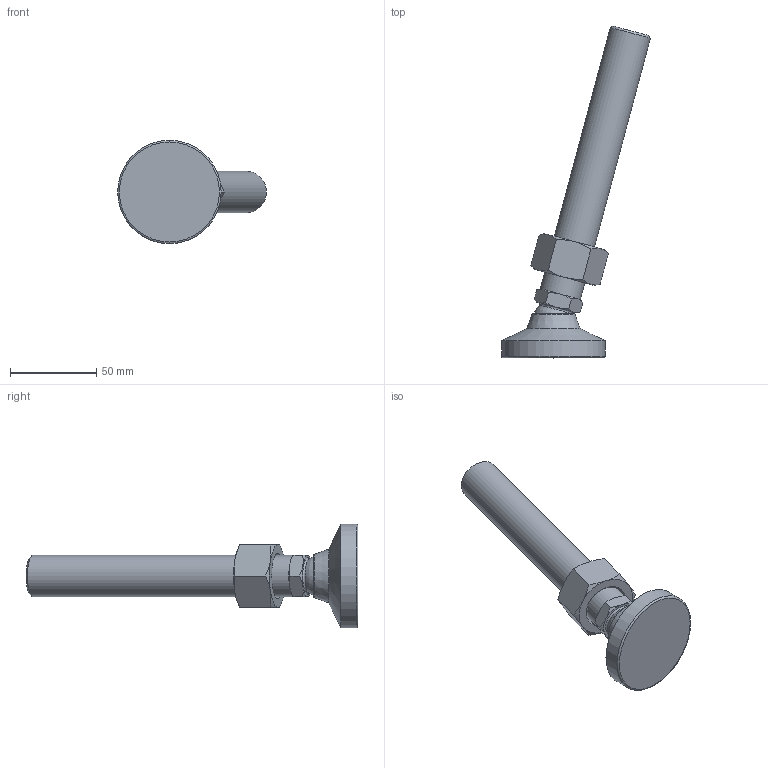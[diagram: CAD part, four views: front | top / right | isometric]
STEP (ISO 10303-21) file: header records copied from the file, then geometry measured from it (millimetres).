
FILE_DESCRIPTION( ( 'STEP AP214' ), ' ' );
FILE_NAME( 'O:/ganter_2015/teil_2/2_5/gn343_2/gn343_2_ks/Levelling foot with threaded stud GN 343.2-60-M24-158-KS-(-15).stp', '2015-10-26T09:12:05', ( '' ), ( '' ), ' ', 'PARTsolutions', ' ' );
FILE_SCHEMA( ( 'AUTOMOTIVE_DESIGN { 1 0 10303 214 1 1 1 1 }' ) );
Length unit declared in the file: millimetre
Products named in the file (4): Levelling foot with threaded stud GN 343.2-60-M24-158-KS-(-15); _Levelling foot with threaded stud GN 343.2-60-M24-158-KS-(-15)_foot; _Gelenkfuss mit Schraube GN 343.2-60-M24-158-KS-(-15)_screw; _GLevelling foot with threaded stud GN 343.2-60-M24-158-KS-(-15)_nut
Assembly tree (3 placements, depth 2):
  Levelling foot with threaded stud GN 343.2-60-M24-158-KS-(-15)
    _Levelling foot with threaded stud GN 343.2-60-M24-158-KS-(-15)_foot
    _Gelenkfuss mit Schraube GN 343.2-60-M24-158-KS-(-15)_screw
    _GLevelling foot with threaded stud GN 343.2-60-M24-158-KS-(-15)_nut
Bounding box: 86.17 x 192.39 x 60 mm (x, y, z)
Volume: 138466.6 mm3; surface area: 28914.3 mm2
Topology: 3 solids, 3 shells, 55 faces, 116 edges, 67 vertices
Faces by surface type: cone 29, plane 18, torus 3, cylinder 3, sphere 2
Full cylindrical faces by diameter (mm): 20.752 x1, 24 x1, 60 x1
Entity records: 2078 total; most frequent: CARTESIAN_POINT 535, DIRECTION 208, ORIENTED_EDGE 198, EDGE_CURVE 99, AXIS2_PLACEMENT_3D 98, EDGE_LOOP 70, VERTEX_POINT 65, FACE_OUTER_BOUND 61
